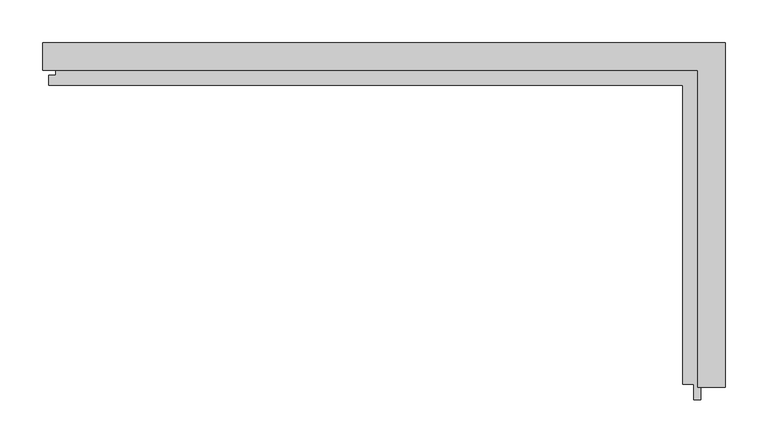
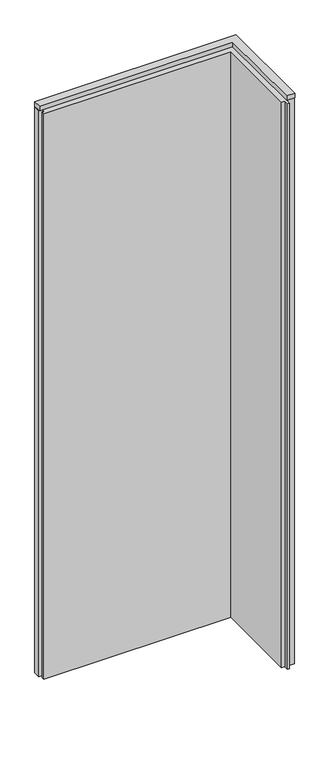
"""IFC4 building model written with IfcOpenShell, lengths in millimetres: plate geometry, Trimo_Qbiss Screen_L Corner Panel-VERTICAL : HR - FB-F."""

from ifc_helpers import new_model, si_unit, frame, origin, place, context, project, spatial, polyline, outline, extrude, source, transform, mapped, element, save


def plate_d0096098(model_context):
    return source(origin(), model_context, "Body", "SweptSolid", [
        extrude(outline(polyline([(-337.0, 93.9), (-337.0, 126.0), (463.0, 126.0), (463.0, -278.0), (430.9, -278.0), (430.9, 93.9), (-337.0, 93.9)])), frame((0.0, 0.0, 2390.5), z_axis=(0.0, 0.0, 1.0), x_axis=(1.0, 0.0, 0.0)), (0.0, 0.0, 1.0), 19.0),
        extrude(outline(polyline([(463.0, -274.0), (434.0, -274.0), (434.0, -292.5), (426.0, -292.5), (426.0, -274.0), (413.0, -274.0), (413.0, 76.0), (-330.0, 76.0), (-330.0, 88.0), (-321.5, 88.0), (-321.5, 98.0), (-337.0, 98.0), (-337.0, 126.0), (463.0, 126.0), (463.0, -274.0)])), frame((0.0, 0.0, 12.5), z_axis=(0.0, 0.0, 1.0), x_axis=(1.0, 0.0, 0.0)), (0.0, 0.0, 1.0), 2375.0),
    ])


if __name__ == "__main__":
    model = new_model("IFC4")
    model_context = context("Model", 3, world=origin())
    ifc_project = project(units=[si_unit("LENGTHUNIT", "METRE", prefix="MILLI")], contexts=[model_context])
    site = spatial("IfcSite", under=ifc_project)
    building = spatial("IfcBuilding", under=site)
    placement = place(None, origin())
    plate_shape = plate_d0096098(model_context)
    element("IfcPlate", 1, ObjectType="Trimo_Qbiss Screen_L Corner Panel-VERTICAL : HR - FB-F", at=placement, inside=building, context=model_context, shape_type="MappedRepresentation", body=[
        mapped(plate_shape, transform((0.0, 0.0, 0.0), x_axis=(1.0, 0.0, 0.0), y_axis=(0.0, 1.0, 0.0), z_axis=(0.0, 0.0, 1.0))),
    ])
    save(model, "model.ifc")
